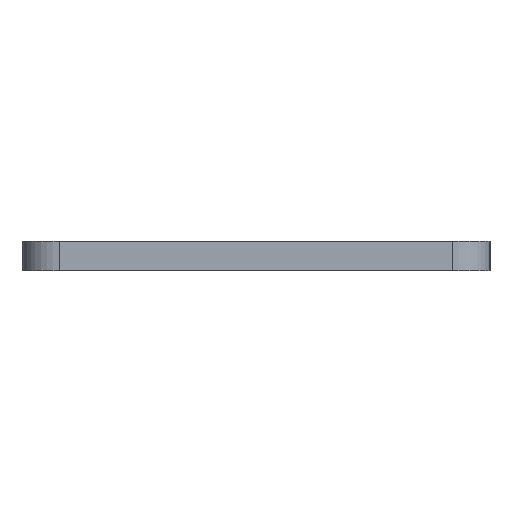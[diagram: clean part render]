
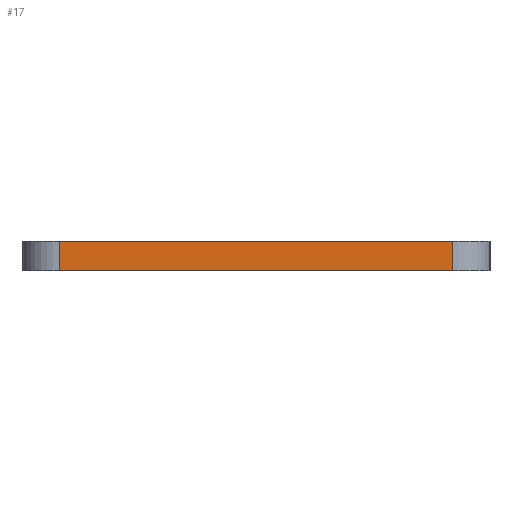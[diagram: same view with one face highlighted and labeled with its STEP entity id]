
A CAD part, left-side view. The second image highlights one B-rep face of the part: STEP entity #17.
In plain terms, the highlighted planar face has unit normal (-1, 0, 0).
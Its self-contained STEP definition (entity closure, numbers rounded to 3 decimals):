
#17 = ADVANCED_FACE('',(#18),#32,.F.);
#18 = FACE_BOUND('',#19,.F.);
#19 = EDGE_LOOP('',(#20,#55,#83,#111));
#20 = ORIENTED_EDGE('',*,*,#21,.F.);
#21 = EDGE_CURVE('',#22,#24,#26,.T.);
#22 = VERTEX_POINT('',#23);
#23 = CARTESIAN_POINT('',(12.,191.,-0.2));
#24 = VERTEX_POINT('',#25);
#25 = CARTESIAN_POINT('',(12.,212.,-0.2));
#26 = SURFACE_CURVE('',#27,(#31,#43),.PCURVE_S1.);
#27 = LINE('',#28,#29);
#28 = CARTESIAN_POINT('',(12.,189.,-0.2));
#29 = VECTOR('',#30,1.);
#30 = DIRECTION('',(0.,1.,0.));
#31 = PCURVE('',#32,#37);
#32 = PLANE('',#33);
#33 = AXIS2_PLACEMENT_3D('',#34,#35,#36);
#34 = CARTESIAN_POINT('',(12.,189.,-1.8));
#35 = DIRECTION('',(1.,0.,0.));
#36 = DIRECTION('',(0.,0.,1.));
#37 = DEFINITIONAL_REPRESENTATION('',(#38),#42);
#38 = LINE('',#39,#40);
#39 = CARTESIAN_POINT('',(1.6,0.));
#40 = VECTOR('',#41,1.);
#41 = DIRECTION('',(0.,-1.));
#42 = ( GEOMETRIC_REPRESENTATION_CONTEXT(2) 
PARAMETRIC_REPRESENTATION_CONTEXT() REPRESENTATION_CONTEXT('2D SPACE',''
  ) );
#43 = PCURVE('',#44,#49);
#44 = PLANE('',#45);
#45 = AXIS2_PLACEMENT_3D('',#46,#47,#48);
#46 = CARTESIAN_POINT('',(12.,189.,-0.2));
#47 = DIRECTION('',(0.,0.,1.));
#48 = DIRECTION('',(1.,0.,0.));
#49 = DEFINITIONAL_REPRESENTATION('',(#50),#54);
#50 = LINE('',#51,#52);
#51 = CARTESIAN_POINT('',(0.,0.));
#52 = VECTOR('',#53,1.);
#53 = DIRECTION('',(0.,1.));
#54 = ( GEOMETRIC_REPRESENTATION_CONTEXT(2) 
PARAMETRIC_REPRESENTATION_CONTEXT() REPRESENTATION_CONTEXT('2D SPACE',''
  ) );
#55 = ORIENTED_EDGE('',*,*,#56,.F.);
#56 = EDGE_CURVE('',#57,#22,#59,.T.);
#57 = VERTEX_POINT('',#58);
#58 = CARTESIAN_POINT('',(12.,191.,-1.8));
#59 = SURFACE_CURVE('',#60,(#64,#71),.PCURVE_S1.);
#60 = LINE('',#61,#62);
#61 = CARTESIAN_POINT('',(12.,191.,-1.8));
#62 = VECTOR('',#63,1.);
#63 = DIRECTION('',(0.,0.,1.));
#64 = PCURVE('',#32,#65);
#65 = DEFINITIONAL_REPRESENTATION('',(#66),#70);
#66 = LINE('',#67,#68);
#67 = CARTESIAN_POINT('',(0.,-2.));
#68 = VECTOR('',#69,1.);
#69 = DIRECTION('',(1.,0.));
#70 = ( GEOMETRIC_REPRESENTATION_CONTEXT(2) 
PARAMETRIC_REPRESENTATION_CONTEXT() REPRESENTATION_CONTEXT('2D SPACE',''
  ) );
#71 = PCURVE('',#72,#77);
#72 = CYLINDRICAL_SURFACE('',#73,2.);
#73 = AXIS2_PLACEMENT_3D('',#74,#75,#76);
#74 = CARTESIAN_POINT('',(14.,191.,-1.8));
#75 = DIRECTION('',(0.,0.,1.));
#76 = DIRECTION('',(-1.,-0.,0.));
#77 = DEFINITIONAL_REPRESENTATION('',(#78),#82);
#78 = LINE('',#79,#80);
#79 = CARTESIAN_POINT('',(0.,0.));
#80 = VECTOR('',#81,1.);
#81 = DIRECTION('',(0.,1.));
#82 = ( GEOMETRIC_REPRESENTATION_CONTEXT(2) 
PARAMETRIC_REPRESENTATION_CONTEXT() REPRESENTATION_CONTEXT('2D SPACE',''
  ) );
#83 = ORIENTED_EDGE('',*,*,#84,.T.);
#84 = EDGE_CURVE('',#57,#85,#87,.T.);
#85 = VERTEX_POINT('',#86);
#86 = CARTESIAN_POINT('',(12.,212.,-1.8));
#87 = SURFACE_CURVE('',#88,(#92,#99),.PCURVE_S1.);
#88 = LINE('',#89,#90);
#89 = CARTESIAN_POINT('',(12.,189.,-1.8));
#90 = VECTOR('',#91,1.);
#91 = DIRECTION('',(0.,1.,0.));
#92 = PCURVE('',#32,#93);
#93 = DEFINITIONAL_REPRESENTATION('',(#94),#98);
#94 = LINE('',#95,#96);
#95 = CARTESIAN_POINT('',(0.,0.));
#96 = VECTOR('',#97,1.);
#97 = DIRECTION('',(0.,-1.));
#98 = ( GEOMETRIC_REPRESENTATION_CONTEXT(2) 
PARAMETRIC_REPRESENTATION_CONTEXT() REPRESENTATION_CONTEXT('2D SPACE',''
  ) );
#99 = PCURVE('',#100,#105);
#100 = PLANE('',#101);
#101 = AXIS2_PLACEMENT_3D('',#102,#103,#104);
#102 = CARTESIAN_POINT('',(12.,189.,-1.8));
#103 = DIRECTION('',(0.,0.,1.));
#104 = DIRECTION('',(1.,0.,0.));
#105 = DEFINITIONAL_REPRESENTATION('',(#106),#110);
#106 = LINE('',#107,#108);
#107 = CARTESIAN_POINT('',(0.,0.));
#108 = VECTOR('',#109,1.);
#109 = DIRECTION('',(0.,1.));
#110 = ( GEOMETRIC_REPRESENTATION_CONTEXT(2) 
PARAMETRIC_REPRESENTATION_CONTEXT() REPRESENTATION_CONTEXT('2D SPACE',''
  ) );
#111 = ORIENTED_EDGE('',*,*,#112,.T.);
#112 = EDGE_CURVE('',#85,#24,#113,.T.);
#113 = SURFACE_CURVE('',#114,(#118,#125),.PCURVE_S1.);
#114 = LINE('',#115,#116);
#115 = CARTESIAN_POINT('',(12.,212.,-1.8));
#116 = VECTOR('',#117,1.);
#117 = DIRECTION('',(0.,0.,1.));
#118 = PCURVE('',#32,#119);
#119 = DEFINITIONAL_REPRESENTATION('',(#120),#124);
#120 = LINE('',#121,#122);
#121 = CARTESIAN_POINT('',(0.,-23.));
#122 = VECTOR('',#123,1.);
#123 = DIRECTION('',(1.,0.));
#124 = ( GEOMETRIC_REPRESENTATION_CONTEXT(2) 
PARAMETRIC_REPRESENTATION_CONTEXT() REPRESENTATION_CONTEXT('2D SPACE',''
  ) );
#125 = PCURVE('',#126,#131);
#126 = CYLINDRICAL_SURFACE('',#127,2.);
#127 = AXIS2_PLACEMENT_3D('',#128,#129,#130);
#128 = CARTESIAN_POINT('',(14.,212.,-1.8));
#129 = DIRECTION('',(0.,0.,1.));
#130 = DIRECTION('',(-1.,-0.,0.));
#131 = DEFINITIONAL_REPRESENTATION('',(#132),#136);
#132 = LINE('',#133,#134);
#133 = CARTESIAN_POINT('',(-0.,0.));
#134 = VECTOR('',#135,1.);
#135 = DIRECTION('',(-0.,1.));
#136 = ( GEOMETRIC_REPRESENTATION_CONTEXT(2) 
PARAMETRIC_REPRESENTATION_CONTEXT() REPRESENTATION_CONTEXT('2D SPACE',''
  ) );
